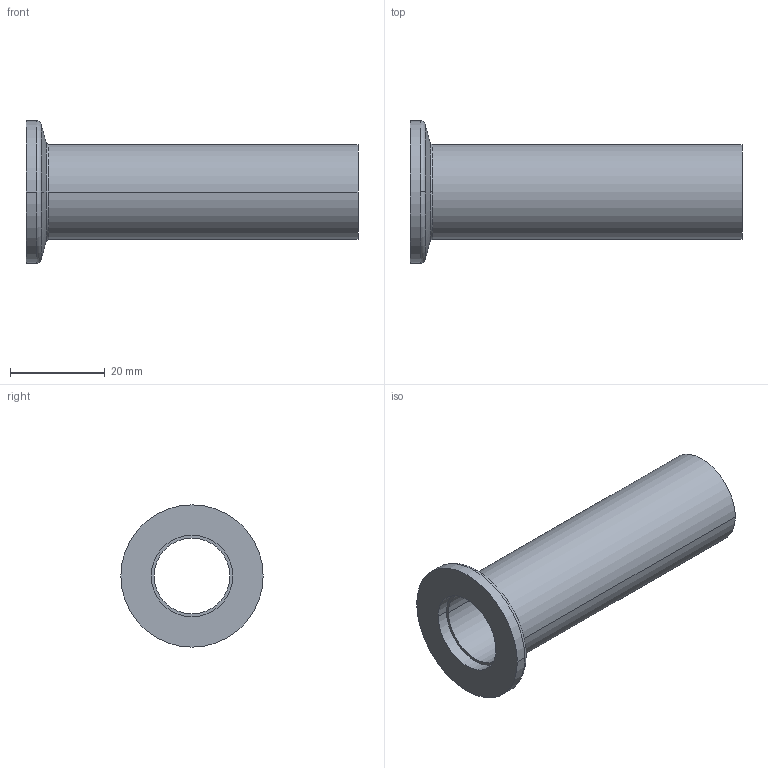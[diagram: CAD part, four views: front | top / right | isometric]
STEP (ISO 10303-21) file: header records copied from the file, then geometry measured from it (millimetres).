
FILE_DESCRIPTION((''),'2;1');
FILE_NAME('W:\211-217.stp','2003-10-09T10:09:50',('KAA'),(''),'Autodesk Inventor (R) 6.0','Autodesk Inventor (R) 6.0','');
FILE_SCHEMA(('CONFIG_CONTROL_DESIGN'));
Length unit declared in the file: millimetre
Products named in the file (1): 211-217
Bounding box: 70 x 30 x 30 mm (x, y, z)
Volume: 9254.3 mm3; surface area: 8931.7 mm2
Topology: 1 solids, 1 shells, 17 faces, 42 edges, 28 vertices
Faces by surface type: cylinder 8, plane 3, torus 2, cone 2, bspline 2
Entity records: 707 total; most frequent: CARTESIAN_POINT 176, DIRECTION 106, ORIENTED_EDGE 84, AXIS2_PLACEMENT_3D 48, EDGE_CURVE 42, CIRCLE 32, VERTEX_POINT 28, EDGE_LOOP 20
